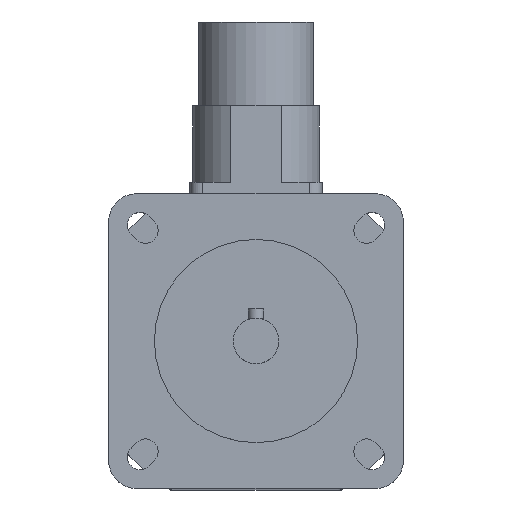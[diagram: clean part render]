
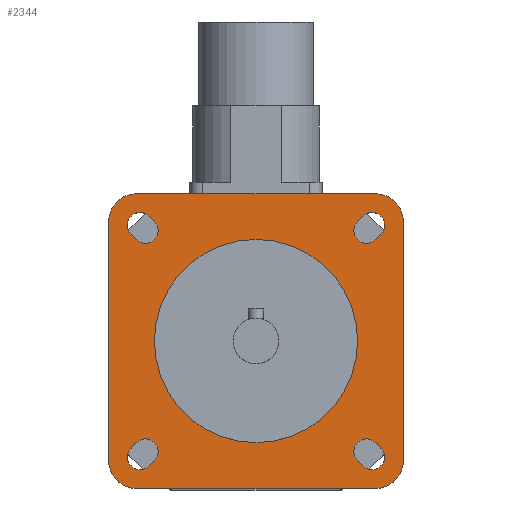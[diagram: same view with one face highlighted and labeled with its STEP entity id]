
A CAD part, top view. The second image highlights one B-rep face of the part: STEP entity #2344.
In plain terms, the highlighted planar face has unit normal (0, 0, 1).
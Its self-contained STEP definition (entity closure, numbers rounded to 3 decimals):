
#28=FACE_BOUND('',#421,.T.);
#29=FACE_BOUND('',#422,.T.);
#30=FACE_BOUND('',#423,.T.);
#31=FACE_BOUND('',#424,.T.);
#32=FACE_BOUND('',#425,.T.);
#46=CIRCLE('',#2435,20.);
#83=CIRCLE('',#2499,2.5);
#87=CIRCLE('',#2506,2.5);
#88=CIRCLE('',#2509,2.5);
#89=CIRCLE('',#2512,2.5);
#99=CIRCLE('',#2527,2.5);
#100=CIRCLE('',#2530,2.5);
#101=CIRCLE('',#2533,2.5);
#102=CIRCLE('',#2536,2.5);
#103=CIRCLE('',#2538,5.5);
#104=CIRCLE('',#2540,5.5);
#105=CIRCLE('',#2542,5.5);
#106=CIRCLE('',#2544,5.5);
#281=FACE_OUTER_BOUND('',#420,.T.);
#420=EDGE_LOOP('',(#1806,#1807,#1808,#1809,#1810,#1811,#1812,#1813));
#421=EDGE_LOOP('',(#1814));
#422=EDGE_LOOP('',(#1815,#1816,#1817,#1818));
#423=EDGE_LOOP('',(#1819,#1820,#1821,#1822));
#424=EDGE_LOOP('',(#1823,#1824,#1825,#1826));
#425=EDGE_LOOP('',(#1827,#1828,#1829,#1830));
#564=LINE('',#3642,#783);
#572=LINE('',#3666,#791);
#576=LINE('',#3676,#795);
#580=LINE('',#3686,#799);
#596=LINE('',#3737,#815);
#598=LINE('',#3743,#817);
#600=LINE('',#3749,#819);
#602=LINE('',#3755,#821);
#611=LINE('',#3783,#830);
#612=LINE('',#3784,#831);
#613=LINE('',#3785,#832);
#614=LINE('',#3786,#833);
#783=VECTOR('',#2885,1.5);
#791=VECTOR('',#2907,1.5);
#795=VECTOR('',#2917,1.5);
#799=VECTOR('',#2927,1.5);
#815=VECTOR('',#2973,1.5);
#817=VECTOR('',#2981,1.5);
#819=VECTOR('',#2989,1.5);
#821=VECTOR('',#2997,1.5);
#830=VECTOR('',#3028,47.);
#831=VECTOR('',#3029,47.);
#832=VECTOR('',#3030,47.);
#833=VECTOR('',#3031,47.);
#956=VERTEX_POINT('',#3463);
#1021=VERTEX_POINT('',#3639);
#1022=VERTEX_POINT('',#3641);
#1023=VERTEX_POINT('',#3645);
#1030=VERTEX_POINT('',#3663);
#1031=VERTEX_POINT('',#3665);
#1032=VERTEX_POINT('',#3669);
#1033=VERTEX_POINT('',#3673);
#1034=VERTEX_POINT('',#3675);
#1035=VERTEX_POINT('',#3679);
#1036=VERTEX_POINT('',#3683);
#1037=VERTEX_POINT('',#3685);
#1038=VERTEX_POINT('',#3689);
#1057=VERTEX_POINT('',#3735);
#1058=VERTEX_POINT('',#3741);
#1059=VERTEX_POINT('',#3747);
#1060=VERTEX_POINT('',#3753);
#1061=VERTEX_POINT('',#3759);
#1062=VERTEX_POINT('',#3761);
#1063=VERTEX_POINT('',#3765);
#1064=VERTEX_POINT('',#3767);
#1065=VERTEX_POINT('',#3771);
#1066=VERTEX_POINT('',#3773);
#1067=VERTEX_POINT('',#3777);
#1068=VERTEX_POINT('',#3779);
#1190=EDGE_CURVE('',#956,#956,#46,.T.);
#1276=EDGE_CURVE('',#1022,#1021,#564,.T.);
#1279=EDGE_CURVE('',#1021,#1023,#83,.T.);
#1288=EDGE_CURVE('',#1031,#1030,#572,.T.);
#1291=EDGE_CURVE('',#1030,#1032,#87,.T.);
#1293=EDGE_CURVE('',#1034,#1033,#576,.T.);
#1296=EDGE_CURVE('',#1033,#1035,#88,.T.);
#1298=EDGE_CURVE('',#1037,#1036,#580,.T.);
#1301=EDGE_CURVE('',#1036,#1038,#89,.T.);
#1324=EDGE_CURVE('',#1035,#1057,#596,.T.);
#1325=EDGE_CURVE('',#1057,#1034,#99,.T.);
#1327=EDGE_CURVE('',#1032,#1058,#598,.T.);
#1328=EDGE_CURVE('',#1058,#1031,#100,.T.);
#1330=EDGE_CURVE('',#1038,#1059,#600,.T.);
#1331=EDGE_CURVE('',#1059,#1037,#101,.T.);
#1333=EDGE_CURVE('',#1023,#1060,#602,.T.);
#1334=EDGE_CURVE('',#1060,#1022,#102,.T.);
#1336=EDGE_CURVE('',#1062,#1061,#103,.T.);
#1339=EDGE_CURVE('',#1064,#1063,#104,.T.);
#1342=EDGE_CURVE('',#1066,#1065,#105,.T.);
#1345=EDGE_CURVE('',#1068,#1067,#106,.T.);
#1347=EDGE_CURVE('',#1061,#1068,#611,.T.);
#1348=EDGE_CURVE('',#1067,#1066,#612,.T.);
#1349=EDGE_CURVE('',#1065,#1064,#613,.T.);
#1350=EDGE_CURVE('',#1063,#1062,#614,.T.);
#1806=ORIENTED_EDGE('',*,*,#1347,.T.);
#1807=ORIENTED_EDGE('',*,*,#1345,.T.);
#1808=ORIENTED_EDGE('',*,*,#1348,.T.);
#1809=ORIENTED_EDGE('',*,*,#1342,.T.);
#1810=ORIENTED_EDGE('',*,*,#1349,.T.);
#1811=ORIENTED_EDGE('',*,*,#1339,.T.);
#1812=ORIENTED_EDGE('',*,*,#1350,.T.);
#1813=ORIENTED_EDGE('',*,*,#1336,.T.);
#1814=ORIENTED_EDGE('',*,*,#1190,.T.);
#1815=ORIENTED_EDGE('',*,*,#1324,.T.);
#1816=ORIENTED_EDGE('',*,*,#1325,.T.);
#1817=ORIENTED_EDGE('',*,*,#1293,.T.);
#1818=ORIENTED_EDGE('',*,*,#1296,.T.);
#1819=ORIENTED_EDGE('',*,*,#1327,.T.);
#1820=ORIENTED_EDGE('',*,*,#1328,.T.);
#1821=ORIENTED_EDGE('',*,*,#1288,.T.);
#1822=ORIENTED_EDGE('',*,*,#1291,.T.);
#1823=ORIENTED_EDGE('',*,*,#1330,.T.);
#1824=ORIENTED_EDGE('',*,*,#1331,.T.);
#1825=ORIENTED_EDGE('',*,*,#1298,.T.);
#1826=ORIENTED_EDGE('',*,*,#1301,.T.);
#1827=ORIENTED_EDGE('',*,*,#1333,.T.);
#1828=ORIENTED_EDGE('',*,*,#1334,.T.);
#1829=ORIENTED_EDGE('',*,*,#1276,.T.);
#1830=ORIENTED_EDGE('',*,*,#1279,.T.);
#2248=PLANE('',#2545);
#2344=ADVANCED_FACE('',(#281,#28,#29,#30,#31,#32),#2248,.T.);
#2435=AXIS2_PLACEMENT_3D('',#3464,#2710,#2711);
#2499=AXIS2_PLACEMENT_3D('',#3647,#2890,#2891);
#2506=AXIS2_PLACEMENT_3D('',#3671,#2912,#2913);
#2509=AXIS2_PLACEMENT_3D('',#3681,#2922,#2923);
#2512=AXIS2_PLACEMENT_3D('',#3691,#2932,#2933);
#2527=AXIS2_PLACEMENT_3D('',#3739,#2976,#2977);
#2530=AXIS2_PLACEMENT_3D('',#3745,#2984,#2985);
#2533=AXIS2_PLACEMENT_3D('',#3751,#2992,#2993);
#2536=AXIS2_PLACEMENT_3D('',#3757,#3000,#3001);
#2538=AXIS2_PLACEMENT_3D('',#3762,#3005,#3006);
#2540=AXIS2_PLACEMENT_3D('',#3768,#3011,#3012);
#2542=AXIS2_PLACEMENT_3D('',#3774,#3017,#3018);
#2544=AXIS2_PLACEMENT_3D('',#3780,#3023,#3024);
#2545=AXIS2_PLACEMENT_3D('',#3782,#3026,#3027);
#2710=DIRECTION('center_axis',(0.,0.,-1.));
#2711=DIRECTION('ref_axis',(-1.,0.,0.));
#2885=DIRECTION('',(-0.707,-0.707,0.));
#2890=DIRECTION('center_axis',(0.,0.,-1.));
#2891=DIRECTION('ref_axis',(0.707,-0.707,0.));
#2907=DIRECTION('',(-0.707,0.707,0.));
#2912=DIRECTION('center_axis',(0.,0.,-1.));
#2913=DIRECTION('ref_axis',(-0.707,-0.707,0.));
#2917=DIRECTION('',(-0.707,-0.707,0.));
#2922=DIRECTION('center_axis',(0.,0.,-1.));
#2923=DIRECTION('ref_axis',(0.707,-0.707,0.));
#2927=DIRECTION('',(-0.707,0.707,0.));
#2932=DIRECTION('center_axis',(0.,0.,-1.));
#2933=DIRECTION('ref_axis',(-0.707,-0.707,0.));
#2973=DIRECTION('',(0.707,0.707,0.));
#2976=DIRECTION('center_axis',(0.,0.,-1.));
#2977=DIRECTION('ref_axis',(-0.707,0.707,0.));
#2981=DIRECTION('',(0.707,-0.707,0.));
#2984=DIRECTION('center_axis',(0.,0.,-1.));
#2985=DIRECTION('ref_axis',(0.707,0.707,0.));
#2989=DIRECTION('',(0.707,-0.707,0.));
#2992=DIRECTION('center_axis',(0.,0.,-1.));
#2993=DIRECTION('ref_axis',(0.707,0.707,0.));
#2997=DIRECTION('',(0.707,0.707,0.));
#3000=DIRECTION('center_axis',(0.,0.,-1.));
#3001=DIRECTION('ref_axis',(-0.707,0.707,0.));
#3005=DIRECTION('center_axis',(0.,0.,1.));
#3006=DIRECTION('ref_axis',(1.,0.,0.));
#3011=DIRECTION('center_axis',(0.,0.,1.));
#3012=DIRECTION('ref_axis',(0.,-1.,0.));
#3017=DIRECTION('center_axis',(0.,0.,1.));
#3018=DIRECTION('ref_axis',(-1.,0.,0.));
#3023=DIRECTION('center_axis',(0.,0.,1.));
#3024=DIRECTION('ref_axis',(0.,1.,0.));
#3026=DIRECTION('center_axis',(0.,0.,1.));
#3027=DIRECTION('ref_axis',(1.,0.,0.));
#3028=DIRECTION('',(-1.,0.,0.));
#3029=DIRECTION('',(0.,-1.,0.));
#3030=DIRECTION('',(1.,0.,0.));
#3031=DIRECTION('',(0.,1.,0.));
#3463=CARTESIAN_POINT('',(20.,0.,157.));
#3464=CARTESIAN_POINT('Origin',(0.,0.,157.));
#3639=CARTESIAN_POINT('',(-21.036,-24.572,157.));
#3641=CARTESIAN_POINT('',(-19.976,-23.511,157.));
#3642=CARTESIAN_POINT('',(-9.634,-13.17,157.));
#3645=CARTESIAN_POINT('',(-24.572,-21.036,157.));
#3647=CARTESIAN_POINT('Origin',(-22.804,-22.804,157.));
#3663=CARTESIAN_POINT('',(-24.572,21.036,157.));
#3665=CARTESIAN_POINT('',(-23.511,19.976,157.));
#3666=CARTESIAN_POINT('',(-13.17,9.634,157.));
#3669=CARTESIAN_POINT('',(-21.036,24.572,157.));
#3671=CARTESIAN_POINT('Origin',(-22.804,22.804,157.));
#3673=CARTESIAN_POINT('',(23.511,19.976,157.));
#3675=CARTESIAN_POINT('',(24.572,21.036,157.));
#3676=CARTESIAN_POINT('',(12.64,9.104,157.));
#3679=CARTESIAN_POINT('',(19.976,23.511,157.));
#3681=CARTESIAN_POINT('Origin',(21.744,21.744,157.));
#3683=CARTESIAN_POINT('',(19.976,-23.511,157.));
#3685=CARTESIAN_POINT('',(21.036,-24.572,157.));
#3686=CARTESIAN_POINT('',(9.104,-12.64,157.));
#3689=CARTESIAN_POINT('',(23.511,-19.976,157.));
#3691=CARTESIAN_POINT('Origin',(21.744,-21.744,157.));
#3735=CARTESIAN_POINT('',(21.036,24.572,157.));
#3737=CARTESIAN_POINT('',(9.634,13.17,157.));
#3739=CARTESIAN_POINT('Origin',(22.804,22.804,157.));
#3741=CARTESIAN_POINT('',(-19.976,23.511,157.));
#3743=CARTESIAN_POINT('',(-9.104,12.64,157.));
#3745=CARTESIAN_POINT('Origin',(-21.744,21.744,157.));
#3747=CARTESIAN_POINT('',(24.572,-21.036,157.));
#3749=CARTESIAN_POINT('',(13.17,-9.634,157.));
#3751=CARTESIAN_POINT('Origin',(22.804,-22.804,157.));
#3753=CARTESIAN_POINT('',(-23.511,-19.976,157.));
#3755=CARTESIAN_POINT('',(-12.64,-9.104,157.));
#3757=CARTESIAN_POINT('Origin',(-21.744,-21.744,157.));
#3759=CARTESIAN_POINT('',(23.5,29.,157.));
#3761=CARTESIAN_POINT('',(29.,23.5,157.));
#3762=CARTESIAN_POINT('Origin',(23.5,23.5,157.));
#3765=CARTESIAN_POINT('',(29.,-23.5,157.));
#3767=CARTESIAN_POINT('',(23.5,-29.,157.));
#3768=CARTESIAN_POINT('Origin',(23.5,-23.5,157.));
#3771=CARTESIAN_POINT('',(-23.5,-29.,157.));
#3773=CARTESIAN_POINT('',(-29.,-23.5,157.));
#3774=CARTESIAN_POINT('Origin',(-23.5,-23.5,157.));
#3777=CARTESIAN_POINT('',(-29.,23.5,157.));
#3779=CARTESIAN_POINT('',(-23.5,29.,157.));
#3780=CARTESIAN_POINT('Origin',(-23.5,23.5,157.));
#3782=CARTESIAN_POINT('Origin',(0.,0.,
157.));
#3783=CARTESIAN_POINT('',(23.5,29.,157.));
#3784=CARTESIAN_POINT('',(-29.,23.5,157.));
#3785=CARTESIAN_POINT('',(-23.5,-29.,157.));
#3786=CARTESIAN_POINT('',(29.,-23.5,157.));
